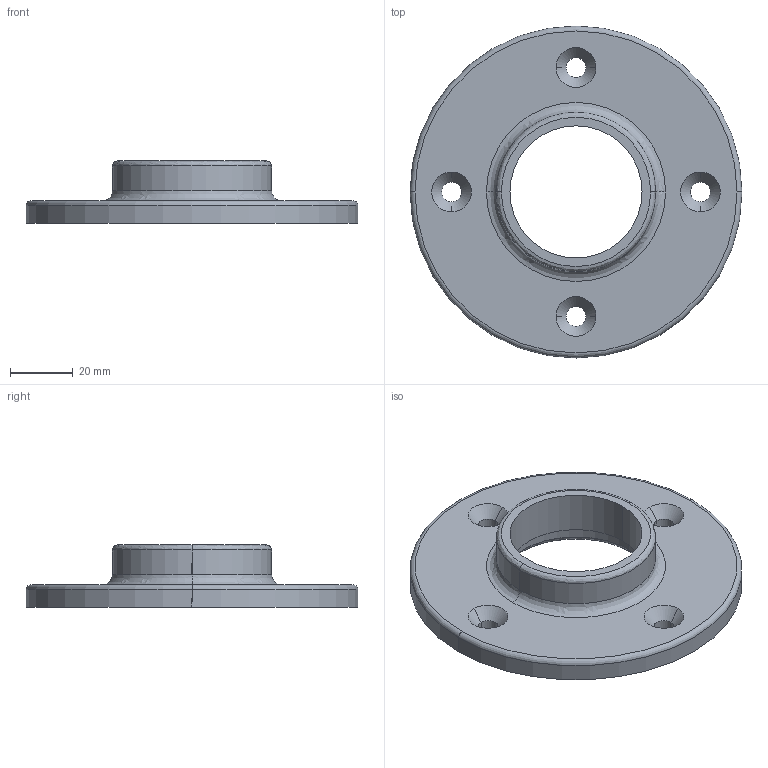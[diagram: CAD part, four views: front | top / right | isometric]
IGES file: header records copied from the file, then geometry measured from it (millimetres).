
Global section: file name: C:\Documents and Settings\Administrator\Desktop\Transfer Temp\Flange1250.igs; native system: AutoDesk Inventor R2.0 ; preprocessor: AutoDesk Inventor Iges Exporter R2.0; author: No Author specified; organization: No Organization specified; date: 20020103.132555; units: inch
Bounding box: 105.92 x 105.92 x 19.81 mm (x, y, z)
Surface area: 21424.5 mm2 (no closed solid volume)
Topology: 0 solids, 0 shells, 38 faces, 168 edges, 168 vertices
Faces by surface type: bspline 26, revolution 12
